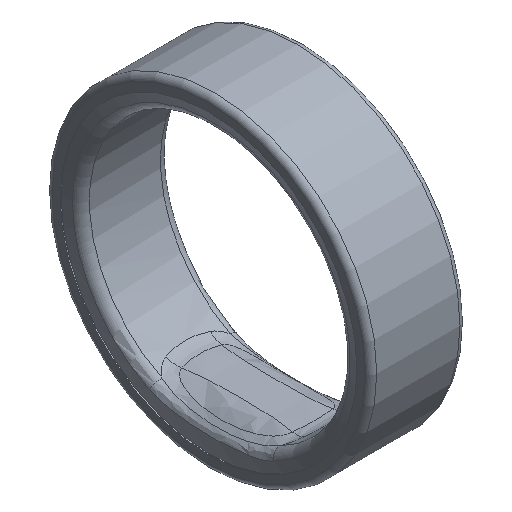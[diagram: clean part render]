
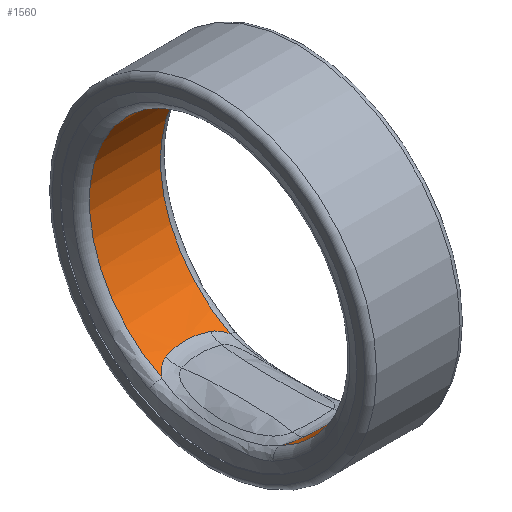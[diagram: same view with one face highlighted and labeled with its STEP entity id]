
A CAD part, isometric view. The second image highlights one B-rep face of the part: STEP entity #1560.
In plain terms, the highlighted cylindrical face has radius 11.201 mm (diameter 22.402 mm), a partial arc.
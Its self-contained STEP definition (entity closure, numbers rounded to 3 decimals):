
#22=B_SPLINE_CURVE_WITH_KNOTS('',3,(#2469,#2470,#2471,#2472),
 .UNSPECIFIED.,.F.,.F.,(4,4),(0.942,1.094),
 .UNSPECIFIED.);
#23=B_SPLINE_CURVE_WITH_KNOTS('',3,(#2474,#2475,#2476,#2477,#2478,#2479,
#2480,#2481,#2482,#2483,#2484,#2485,#2486),.UNSPECIFIED.,.F.,.F.,(4,3,3,
3,4),(0.,0.002,0.174,0.35,
0.41),.UNSPECIFIED.);
#24=B_SPLINE_CURVE_WITH_KNOTS('',3,(#2488,#2489,#2490,#2491,#2492,#2493),
 .UNSPECIFIED.,.F.,.F.,(4,2,4),(0.,0.078,0.125),
 .UNSPECIFIED.);
#25=B_SPLINE_CURVE_WITH_KNOTS('',3,(#2497,#2498,#2499,#2500),
 .UNSPECIFIED.,.F.,.F.,(4,4),(0.968,1.094),
 .UNSPECIFIED.);
#26=B_SPLINE_CURVE_WITH_KNOTS('',3,(#2502,#2503,#2504,#2505,#2506,#2507,
#2508,#2509,#2510,#2511,#2512,#2513,#2514,#2515,#2516,#2517,#2518,#2519,
#2520,#2521,#2522,#2523,#2524,#2525,#2526,#2527,#2528,#2529),
 .UNSPECIFIED.,.F.,.F.,(4,3,3,3,3,3,3,3,3,4),(0.,0.171,0.29,
0.35,0.38,0.395,0.402,
0.406,0.409,0.41),.UNSPECIFIED.);
#27=B_SPLINE_CURVE_WITH_KNOTS('',3,(#2530,#2531,#2532,#2533,#2534,#2535),
 .UNSPECIFIED.,.F.,.F.,(4,2,4),(-0.152,-0.078,
0.),.UNSPECIFIED.);
#390=CYLINDRICAL_SURFACE('',#1692,11.201);
#408=FACE_OUTER_BOUND('',#507,.T.);
#507=EDGE_LOOP('',(#1105,#1106,#1107,#1108,#1109,#1110,#1111,#1112));
#623=CIRCLE('',#1691,11.201);
#624=CIRCLE('',#1693,11.201);
#659=VERTEX_POINT('',#2373);
#663=VERTEX_POINT('',#2380);
#664=VERTEX_POINT('',#2468);
#665=VERTEX_POINT('',#2473);
#666=VERTEX_POINT('',#2487);
#667=VERTEX_POINT('',#2494);
#668=VERTEX_POINT('',#2496);
#669=VERTEX_POINT('',#2501);
#831=EDGE_CURVE('',#663,#659,#623,.T.);
#834=EDGE_CURVE('',#663,#664,#22,.T.);
#835=EDGE_CURVE('',#665,#664,#23,.T.);
#836=EDGE_CURVE('',#665,#666,#24,.T.);
#837=EDGE_CURVE('',#667,#666,#624,.T.);
#838=EDGE_CURVE('',#667,#668,#25,.T.);
#839=EDGE_CURVE('',#669,#668,#26,.T.);
#840=EDGE_CURVE('',#659,#669,#27,.T.);
#1105=ORIENTED_EDGE('',*,*,#831,.F.);
#1106=ORIENTED_EDGE('',*,*,#834,.T.);
#1107=ORIENTED_EDGE('',*,*,#835,.F.);
#1108=ORIENTED_EDGE('',*,*,#836,.T.);
#1109=ORIENTED_EDGE('',*,*,#837,.F.);
#1110=ORIENTED_EDGE('',*,*,#838,.T.);
#1111=ORIENTED_EDGE('',*,*,#839,.F.);
#1112=ORIENTED_EDGE('',*,*,#840,.F.);
#1560=ADVANCED_FACE('',(#408),#390,.F.);
#1691=AXIS2_PLACEMENT_3D('',#2382,#1817,#1818);
#1692=AXIS2_PLACEMENT_3D('',#2467,#1819,#1820);
#1693=AXIS2_PLACEMENT_3D('',#2495,#1821,#1822);
#1817=DIRECTION('center_axis',(1.,0.,0.));
#1818=DIRECTION('ref_axis',(0.,0.001,1.));
#1819=DIRECTION('center_axis',(1.,0.,0.));
#1820=DIRECTION('ref_axis',(0.,0.,1.));
#1821=DIRECTION('center_axis',(-1.,0.,0.));
#1822=DIRECTION('ref_axis',(0.,0.,
1.));
#2373=CARTESIAN_POINT('',(-3.018,-5.013,-10.018));
#2380=CARTESIAN_POINT('',(-3.018,5.013,-10.017));
#2382=CARTESIAN_POINT('Origin',(-3.018,0.,0.));
#2467=CARTESIAN_POINT('Origin',(4.012,0.,0.));
#2468=CARTESIAN_POINT('',(-1.794,5.901,-9.521));
#2469=CARTESIAN_POINT('Ctrl Pts',(-3.018,5.013,-10.017));
#2470=CARTESIAN_POINT('Ctrl Pts',(-2.686,5.465,-9.792));
#2471=CARTESIAN_POINT('Ctrl Pts',(-2.256,5.779,-9.596));
#2472=CARTESIAN_POINT('Ctrl Pts',(-1.794,5.901,-9.521));
#2473=CARTESIAN_POINT('',(1.997,5.901,-9.521));
#2474=CARTESIAN_POINT('Ctrl Pts',(1.997,5.901,-9.521));
#2475=CARTESIAN_POINT('Ctrl Pts',(1.991,5.903,-9.52));
#2476=CARTESIAN_POINT('Ctrl Pts',(1.985,5.904,-9.519));
#2477=CARTESIAN_POINT('Ctrl Pts',(1.978,5.906,-9.518));
#2478=CARTESIAN_POINT('Ctrl Pts',(1.456,6.042,-9.433));
#2479=CARTESIAN_POINT('Ctrl Pts',(0.924,6.121,-9.384));
#2480=CARTESIAN_POINT('Ctrl Pts',(0.392,6.142,-9.371));
#2481=CARTESIAN_POINT('Ctrl Pts',(-0.154,6.164,-9.358));
#2482=CARTESIAN_POINT('Ctrl Pts',(-0.702,6.124,-9.382));
#2483=CARTESIAN_POINT('Ctrl Pts',(-1.243,6.024,-9.444));
#2484=CARTESIAN_POINT('Ctrl Pts',(-1.427,5.99,-9.465));
#2485=CARTESIAN_POINT('Ctrl Pts',(-1.611,5.949,-9.491));
#2486=CARTESIAN_POINT('Ctrl Pts',(-1.794,5.901,-9.521));
#2487=CARTESIAN_POINT('',(3.039,5.24,-9.901));
#2488=CARTESIAN_POINT('Ctrl Pts',(1.997,5.901,-9.521));
#2489=CARTESIAN_POINT('Ctrl Pts',(2.235,5.838,-9.56));
#2490=CARTESIAN_POINT('Ctrl Pts',(2.466,5.729,-9.627));
#2491=CARTESIAN_POINT('Ctrl Pts',(2.805,5.478,-9.771));
#2492=CARTESIAN_POINT('Ctrl Pts',(2.926,5.366,-9.834));
#2493=CARTESIAN_POINT('Ctrl Pts',(3.039,5.24,-9.901));
#2494=CARTESIAN_POINT('',(3.039,-5.237,-9.902));
#2495=CARTESIAN_POINT('Origin',(3.039,0.,0.));
#2496=CARTESIAN_POINT('',(1.997,-5.901,-9.521));
#2497=CARTESIAN_POINT('Ctrl Pts',(3.039,-5.237,-9.902));
#2498=CARTESIAN_POINT('Ctrl Pts',(2.738,-5.569,-9.727));
#2499=CARTESIAN_POINT('Ctrl Pts',(2.379,-5.8,-9.583));
#2500=CARTESIAN_POINT('Ctrl Pts',(1.997,-5.901,-9.521));
#2501=CARTESIAN_POINT('',(-1.794,-5.901,-9.521));
#2502=CARTESIAN_POINT('Ctrl Pts',(-1.794,-5.901,-9.521));
#2503=CARTESIAN_POINT('Ctrl Pts',(-1.273,-6.038,-9.435));
#2504=CARTESIAN_POINT('Ctrl Pts',(-0.744,-6.118,
-9.386));
#2505=CARTESIAN_POINT('Ctrl Pts',(-0.212,-6.141,
-9.372));
#2506=CARTESIAN_POINT('Ctrl Pts',(0.158,-6.157,-9.362));
#2507=CARTESIAN_POINT('Ctrl Pts',(0.529,-6.145,-9.37));
#2508=CARTESIAN_POINT('Ctrl Pts',(0.898,-6.105,-9.394));
#2509=CARTESIAN_POINT('Ctrl Pts',(1.082,-6.085,-9.407));
#2510=CARTESIAN_POINT('Ctrl Pts',(1.267,-6.058,-9.424));
#2511=CARTESIAN_POINT('Ctrl Pts',(1.45,-6.024,-9.445));
#2512=CARTESIAN_POINT('Ctrl Pts',(1.542,-6.007,-9.455));
#2513=CARTESIAN_POINT('Ctrl Pts',(1.633,-5.988,-9.467));
#2514=CARTESIAN_POINT('Ctrl Pts',(1.724,-5.968,-9.479));
#2515=CARTESIAN_POINT('Ctrl Pts',(1.77,-5.957,-9.486));
#2516=CARTESIAN_POINT('Ctrl Pts',(1.816,-5.947,-9.492));
#2517=CARTESIAN_POINT('Ctrl Pts',(1.861,-5.936,-9.499));
#2518=CARTESIAN_POINT('Ctrl Pts',(1.884,-5.93,-9.503));
#2519=CARTESIAN_POINT('Ctrl Pts',(1.907,-5.924,-9.506));
#2520=CARTESIAN_POINT('Ctrl Pts',(1.929,-5.919,-9.51));
#2521=CARTESIAN_POINT('Ctrl Pts',(1.941,-5.916,-9.512));
#2522=CARTESIAN_POINT('Ctrl Pts',(1.952,-5.913,-9.513));
#2523=CARTESIAN_POINT('Ctrl Pts',(1.964,-5.91,-9.515));
#2524=CARTESIAN_POINT('Ctrl Pts',(1.972,-5.908,-9.517));
#2525=CARTESIAN_POINT('Ctrl Pts',(1.98,-5.905,-9.518));
#2526=CARTESIAN_POINT('Ctrl Pts',(1.988,-5.903,-9.519));
#2527=CARTESIAN_POINT('Ctrl Pts',(1.991,-5.903,-9.52));
#2528=CARTESIAN_POINT('Ctrl Pts',(1.994,-5.902,-9.52));
#2529=CARTESIAN_POINT('Ctrl Pts',(1.997,-5.901,-9.521));
#2530=CARTESIAN_POINT('Ctrl Pts',(-3.018,-5.013,-10.018));
#2531=CARTESIAN_POINT('Ctrl Pts',(-2.857,-5.235,-9.907));
#2532=CARTESIAN_POINT('Ctrl Pts',(-2.674,-5.425,-9.802));
#2533=CARTESIAN_POINT('Ctrl Pts',(-2.262,-5.729,-9.627));
#2534=CARTESIAN_POINT('Ctrl Pts',(-2.032,-5.838,-9.56));
#2535=CARTESIAN_POINT('Ctrl Pts',(-1.794,-5.901,-9.521));
